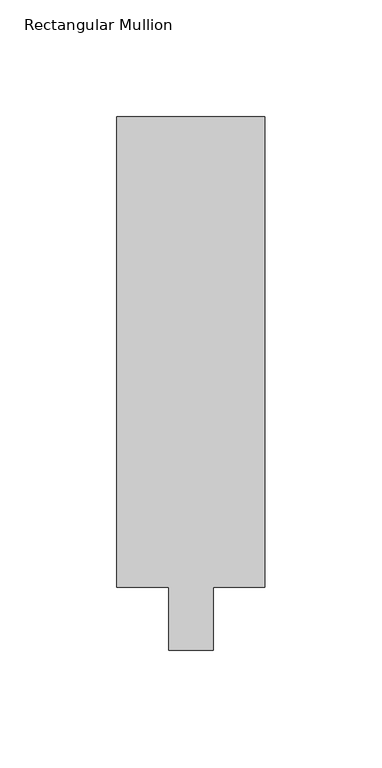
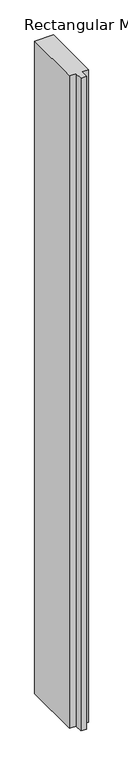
"""IFC4 building model written with IfcOpenShell, lengths in millimetres: member geometry."""

from ifc_helpers import new_model, si_unit, frame, origin, place, context, project, spatial, polyline, outline, extrude, source, transform, mapped, element, save


def rectangular_mullion_9435135d(model_context):
    return source(origin(), model_context, "Body", "SweptSolid", [
        extrude(outline(polyline([(-31.75, 228.6), (31.75, 228.6), (31.75, 26.9875), (9.525, 26.9875), (9.525, 0.0), (-9.525, 0.0), (-9.525, 26.9875), (-31.75, 26.9875), (-31.75, 228.6)])), frame((0.0, 0.0, -2306.6510357), z_axis=(0.0, 0.0, 1.0), x_axis=(1.0, 0.0, 0.0)), (0.0, 0.0, 1.0), 2306.6510357),
    ])


if __name__ == "__main__":
    model = new_model("IFC4")
    model_context = context("Model", 3, world=origin())
    ifc_project = project(units=[si_unit("LENGTHUNIT", "METRE", prefix="MILLI")], contexts=[model_context])
    site = spatial("IfcSite", under=ifc_project)
    building = spatial("IfcBuilding", under=site)
    placement = place(None, origin())
    rectangular_mullion_shape = rectangular_mullion_9435135d(model_context)
    element("IfcMember", 1, ObjectType="Rectangular Mullion : 2 1/2\" x 8\" - Capless", at=placement, inside=building, context=model_context, shape_type="MappedRepresentation", body=[
        mapped(rectangular_mullion_shape, transform((0.0, 0.0, 0.0), x_axis=(1.0, 0.0, 0.0), y_axis=(0.0, 1.0, 0.0), z_axis=(0.0, 0.0, 1.0))),
    ])
    save(model, "model.ifc")
